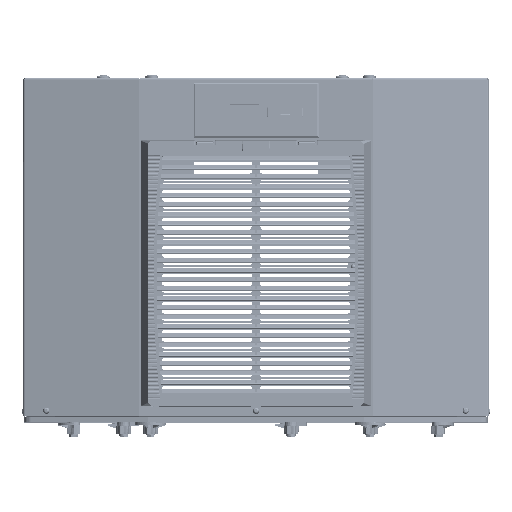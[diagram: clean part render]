
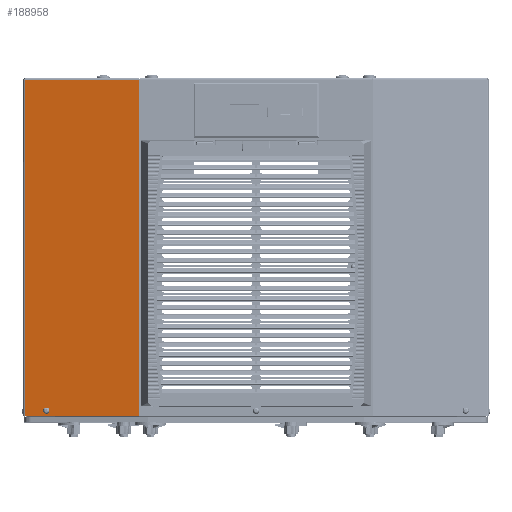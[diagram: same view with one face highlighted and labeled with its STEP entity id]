
A CAD part, top view. The second image highlights one B-rep face of the part: STEP entity #188958.
In plain terms, the highlighted planar face has unit normal (-0.174, 0, 0.985).
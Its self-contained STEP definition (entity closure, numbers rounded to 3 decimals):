
#2871 = CARTESIAN_POINT ( 'NONE',  ( -150.215, -1., 194.462 ) ) ;
#2874 = CARTESIAN_POINT ( 'NONE',  ( -296.538, 431.1, 168.661 ) ) ;
#2881 = CARTESIAN_POINT ( 'NONE',  ( -150.215, 431.1, 194.462 ) ) ;
#2882 = CARTESIAN_POINT ( 'NONE',  ( -150.622, 431.1, 194.39 ) ) ;
#2884 = CARTESIAN_POINT ( 'NONE',  ( -296.538, -1., 168.661 ) ) ;
#5153 = ORIENTED_EDGE ( 'NONE', *, *, #98501, .F. ) ;
#5230 = ORIENTED_EDGE ( 'NONE', *, *, #98515, .T. ) ;
#7641 = LINE ( 'NONE', #197156, #7659 ) ;
#7649 = CIRCLE ( 'NONE', #210923, 2.75 ) ;
#7655 = LINE ( 'NONE', #197167, #7665 ) ;
#7659 = VECTOR ( 'NONE', #197160, 1000. ) ;
#7665 = VECTOR ( 'NONE', #197164, 1000. ) ;
#7675 = LINE ( 'NONE', #197171, #7684 ) ;
#7684 = VECTOR ( 'NONE', #197172, 1000. ) ;
#7700 = LINE ( 'NONE', #197182, #7711 ) ;
#7707 = CIRCLE ( 'NONE', #210930, 0.05 ) ;
#7711 = VECTOR ( 'NONE', #197181, 1000. ) ;
#7829 = LINE ( 'NONE', #197247, #7842 ) ;
#7842 = VECTOR ( 'NONE', #197246, 1000. ) ;
#8097 = CIRCLE ( 'NONE', #211029, 2.75 ) ;
#98498 = EDGE_CURVE ( 'NONE', #99190, #98887, #7649, .T. ) ;
#98501 = EDGE_CURVE ( 'NONE', #108246, #108275, #7641, .T. ) ;
#98505 = EDGE_CURVE ( 'NONE', #108273, #108234, #7655, .T. ) ;
#98515 = EDGE_CURVE ( 'NONE', #108282, #108234, #7675, .T. ) ;
#98528 = EDGE_CURVE ( 'NONE', #108246, #108282, #7700, .T. ) ;
#98532 = EDGE_CURVE ( 'NONE', #98723, #99016, #7707, .T. ) ;
#98607 = EDGE_CURVE ( 'NONE', #108275, #108273, #7829, .T. ) ;
#98723 = VERTEX_POINT ( 'NONE', #197343 ) ;
#98774 = EDGE_CURVE ( 'NONE', #98887, #99190, #8097, .T. ) ;
#98887 = VERTEX_POINT ( 'NONE', #226286 ) ;
#99016 = VERTEX_POINT ( 'NONE', #226686 ) ;
#99190 = VERTEX_POINT ( 'NONE', #227331 ) ;
#99538 = EDGE_LOOP ( 'NONE', ( #193965, #193981 ) ) ;
#105645 = FACE_OUTER_BOUND ( 'NONE', #122911, .T. ) ;
#105656 = FACE_BOUND ( 'NONE', #99538, .T. ) ;
#105662 = FACE_BOUND ( 'NONE', #123102, .T. ) ;
#108234 = VERTEX_POINT ( 'NONE', #2871 ) ;
#108246 = VERTEX_POINT ( 'NONE', #2874 ) ;
#108273 = VERTEX_POINT ( 'NONE', #2881 ) ;
#108275 = VERTEX_POINT ( 'NONE', #2882 ) ;
#108282 = VERTEX_POINT ( 'NONE', #2884 ) ;
#112841 = AXIS2_PLACEMENT_3D ( 'NONE', #137951, #137903, #137963 ) ;
#122911 = EDGE_LOOP ( 'NONE', ( #269527, #5230, #193875, #193857, #5153 ) ) ;
#123102 = EDGE_LOOP ( 'NONE', ( #193927, #193760 ) ) ;
#137903 = DIRECTION ( 'NONE',  ( 0.174, 0., -0.985 ) ) ;
#137951 = CARTESIAN_POINT ( 'NONE',  ( -150., 431.1, 194.5 ) ) ;
#137957 = PLANE ( 'NONE',  #112841 ) ;
#137963 = DIRECTION ( 'NONE',  ( -0.985, 0., -0.174 ) ) ;
#181428 = DIRECTION ( 'NONE',  ( 0.174, 0., -0.985 ) ) ;
#188958 = ADVANCED_FACE ( 'NONE', ( #105662, #105645, #105656 ), #137957, .F. ) ;
#193760 = ORIENTED_EDGE ( 'NONE', *, *, #98532, .F. ) ;
#193857 = ORIENTED_EDGE ( 'NONE', *, *, #98607, .F. ) ;
#193875 = ORIENTED_EDGE ( 'NONE', *, *, #98505, .F. ) ;
#193927 = ORIENTED_EDGE ( 'NONE', *, *, #224252, .F. ) ;
#193965 = ORIENTED_EDGE ( 'NONE', *, *, #98774, .T. ) ;
#193981 = ORIENTED_EDGE ( 'NONE', *, *, #98498, .T. ) ;
#197156 = CARTESIAN_POINT ( 'NONE',  ( -150., 431.1, 194.5 ) ) ;
#197160 = DIRECTION ( 'NONE',  ( 0.985, 0., 0.174 ) ) ;
#197161 = CARTESIAN_POINT ( 'NONE',  ( -269.259, 6., 173.471 ) ) ;
#197162 = DIRECTION ( 'NONE',  ( 0.174, 0., -0.985 ) ) ;
#197163 = DIRECTION ( 'NONE',  ( -0.985, 0., -0.174 ) ) ;
#197164 = DIRECTION ( 'NONE',  ( 0., -1., 0. ) ) ;
#197167 = CARTESIAN_POINT ( 'NONE',  ( -150.215, 431.1, 194.462 ) ) ;
#197171 = CARTESIAN_POINT ( 'NONE',  ( -150., -1., 194.5 ) ) ;
#197172 = DIRECTION ( 'NONE',  ( 0.985, 0., 0.174 ) ) ;
#197181 = DIRECTION ( 'NONE',  ( 0., -1., 0. ) ) ;
#197182 = CARTESIAN_POINT ( 'NONE',  ( -296.538, 431.1, 168.661 ) ) ;
#197185 = CARTESIAN_POINT ( 'NONE',  ( -199.609, 219., 185.753 ) ) ;
#197186 = DIRECTION ( 'NONE',  ( -0.174, 0., 0.985 ) ) ;
#197187 = DIRECTION ( 'NONE',  ( -0.985, 0., -0.174 ) ) ;
#197246 = DIRECTION ( 'NONE',  ( 0.985, 0., 0.174 ) ) ;
#197247 = CARTESIAN_POINT ( 'NONE',  ( -150., 431.1, 194.5 ) ) ;
#197343 = CARTESIAN_POINT ( 'NONE',  ( -199.56, 219., 185.761 ) ) ;
#197387 = CARTESIAN_POINT ( 'NONE',  ( -269.259, 6., 173.471 ) ) ;
#210923 = AXIS2_PLACEMENT_3D ( 'NONE', #197161, #197162, #197163 ) ;
#210930 = AXIS2_PLACEMENT_3D ( 'NONE', #197185, #197186, #197187 ) ;
#211029 = AXIS2_PLACEMENT_3D ( 'NONE', #197387, #181428, #226097 ) ;
#218877 = AXIS2_PLACEMENT_3D ( 'NONE', #302087, #302088, #302089 ) ;
#224252 = EDGE_CURVE ( 'NONE', #99016, #98723, #298671, .T. ) ;
#226097 = DIRECTION ( 'NONE',  ( -0.985, 0., -0.174 ) ) ;
#226286 = CARTESIAN_POINT ( 'NONE',  ( -266.551, 6., 173.949 ) ) ;
#226686 = CARTESIAN_POINT ( 'NONE',  ( -199.659, 219., 185.744 ) ) ;
#227331 = CARTESIAN_POINT ( 'NONE',  ( -271.967, 6., 172.994 ) ) ;
#269527 = ORIENTED_EDGE ( 'NONE', *, *, #98528, .T. ) ;
#298671 = CIRCLE ( 'NONE', #218877, 0.05 ) ;
#302087 = CARTESIAN_POINT ( 'NONE',  ( -199.609, 219., 185.753 ) ) ;
#302088 = DIRECTION ( 'NONE',  ( -0.174, 0., 0.985 ) ) ;
#302089 = DIRECTION ( 'NONE',  ( -0.985, 0., -0.174 ) ) ;
